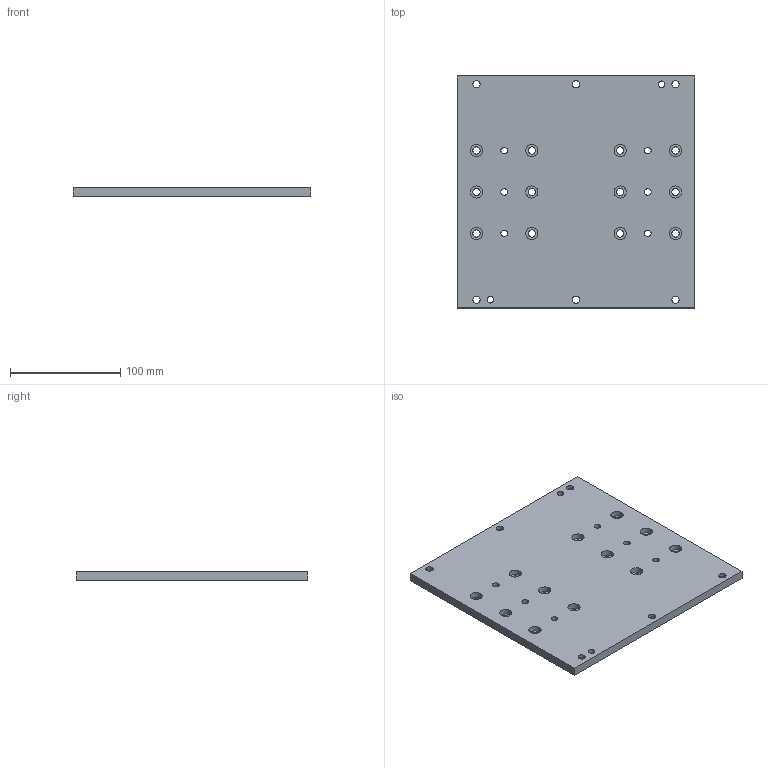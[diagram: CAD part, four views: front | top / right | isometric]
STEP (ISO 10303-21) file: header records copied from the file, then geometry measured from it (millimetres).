
FILE_DESCRIPTION (( 'STEP AP203' ), '1' );
FILE_NAME ('_-_PS11.step', '2005-09-07T12:57:00', ( ' ' ), ( ' ' ), 'SwSTEP 2.0', 'SolidWorks 2005187', '' );
FILE_SCHEMA (( 'CONFIG_CONTROL_DESIGN' ));
Length unit declared in the file: millimetre
Products named in the file (2): _-_PS11; TE0636 Schlittenplatte PS11_Standard
Assembly tree (1 placements, depth 2):
  _-_PS11
    TE0636 Schlittenplatte PS11_Standard
Bounding box: 215 x 210 x 8 mm (x, y, z)
Volume: 348990 mm3; surface area: 100852.2 mm2
Topology: 1 solids, 1 shells, 112 faces, 276 edges, 184 vertices
Faces by surface type: cylinder 88, plane 24
Entity records: 3716 total; most frequent: DIRECTION 684, CARTESIAN_POINT 576, ORIENTED_EDGE 552, AXIS2_PLACEMENT_3D 292, EDGE_CURVE 276, VERTEX_POINT 184, EDGE_LOOP 182, CIRCLE 176
